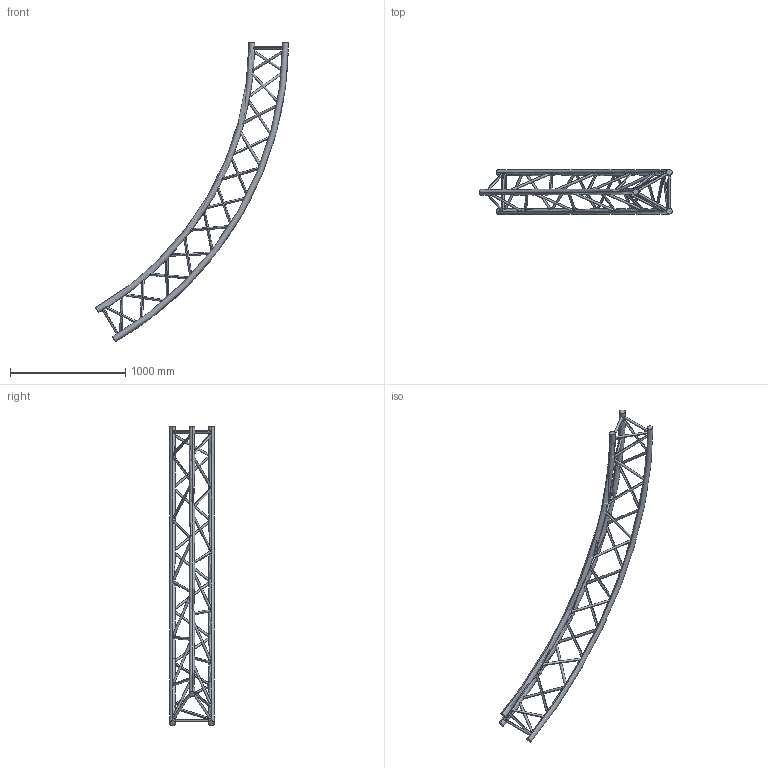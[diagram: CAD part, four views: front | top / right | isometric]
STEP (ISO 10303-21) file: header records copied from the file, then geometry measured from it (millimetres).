
FILE_DESCRIPTION (( 'STEP AP203' ), '1' );
FILE_NAME ('SXC39600PI.STEP', '2009-10-21T11:39:35', ( 'CEDIA' ), ( 'CEDIA INDUSTRIE' ), 'SwSTEP 2.0', 'SolidWorks 2009', '' );
FILE_SCHEMA (( 'CONFIG_CONTROL_DESIGN' ));
Length unit declared in the file: millimetre
Products named in the file (1): SXC39600PI
Bounding box: 1670.93 x 387 x 2598.08 mm (x, y, z)
Volume: 22042764.4 mm3; surface area: 2263209.3 mm2
Topology: 1 solids, 1 shells, 90 faces, 255 edges, 170 vertices
Faces by surface type: cylinder 78, torus 6, plane 6
Entity records: 10450 total; most frequent: CARTESIAN_POINT 8182, ORIENTED_EDGE 510, DIRECTION 296, EDGE_CURVE 255, VERTEX_POINT 170, EDGE_LOOP 167, B_SPLINE_CURVE_WITH_KNOTS 159, AXIS2_PLACEMENT_3D 109
